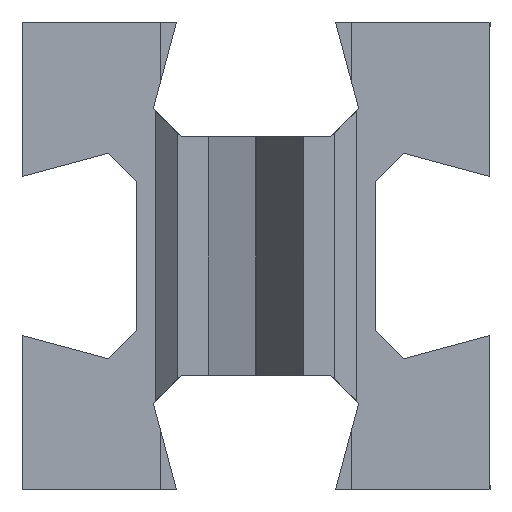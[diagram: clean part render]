
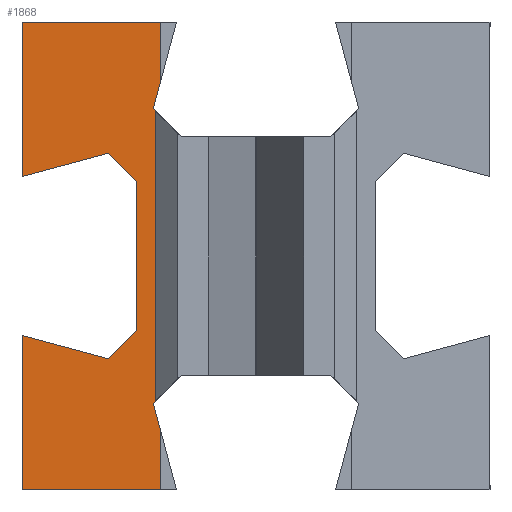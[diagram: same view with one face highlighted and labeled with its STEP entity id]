
A CAD part, front view. The second image highlights one B-rep face of the part: STEP entity #1868.
In plain terms, the highlighted planar face has unit normal (0, -1, 0).
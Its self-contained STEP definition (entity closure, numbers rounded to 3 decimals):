
#102=FACE_OUTER_BOUND('',#210,.T.);
#210=EDGE_LOOP('',(#1554,#1555,#1556,#1557,#1558,#1559,#1560,#1561,#1562,
#1563,#1564,#1565,#1566,#1567,#1568,#1569));
#308=LINE('',#2635,#566);
#316=LINE('',#2651,#574);
#332=LINE('',#2681,#590);
#336=LINE('',#2688,#594);
#339=LINE('',#2696,#597);
#373=LINE('',#2764,#631);
#395=LINE('',#2807,#653);
#425=LINE('',#2864,#683);
#434=LINE('',#2883,#692);
#436=LINE('',#2888,#694);
#438=LINE('',#2891,#696);
#452=LINE('',#2918,#710);
#458=LINE('',#2930,#716);
#468=LINE('',#2949,#726);
#469=LINE('',#2951,#727);
#470=LINE('',#2952,#728);
#566=VECTOR('',#2134,10.);
#574=VECTOR('',#2148,10.);
#590=VECTOR('',#2172,10.);
#594=VECTOR('',#2180,10.);
#597=VECTOR('',#2187,10.);
#631=VECTOR('',#2233,10.);
#653=VECTOR('',#2269,10.);
#683=VECTOR('',#2327,10.);
#692=VECTOR('',#2348,10.);
#694=VECTOR('',#2354,10.);
#696=VECTOR('',#2358,10.);
#710=VECTOR('',#2384,10.);
#716=VECTOR('',#2394,10.);
#726=VECTOR('',#2414,10.);
#727=VECTOR('',#2415,10.);
#728=VECTOR('',#2416,10.);
#799=VERTEX_POINT('',#2632);
#800=VERTEX_POINT('',#2634);
#804=VERTEX_POINT('',#2648);
#805=VERTEX_POINT('',#2650);
#814=VERTEX_POINT('',#2678);
#815=VERTEX_POINT('',#2680);
#816=VERTEX_POINT('',#2686);
#818=VERTEX_POINT('',#2694);
#819=VERTEX_POINT('',#2695);
#847=VERTEX_POINT('',#2762);
#861=VERTEX_POINT('',#2806);
#879=VERTEX_POINT('',#2886);
#885=VERTEX_POINT('',#2916);
#886=VERTEX_POINT('',#2917);
#890=VERTEX_POINT('',#2929);
#895=VERTEX_POINT('',#2950);
#976=EDGE_CURVE('',#800,#799,#308,.T.);
#984=EDGE_CURVE('',#805,#804,#316,.T.);
#1000=EDGE_CURVE('',#815,#814,#332,.T.);
#1004=EDGE_CURVE('',#814,#816,#336,.T.);
#1007=EDGE_CURVE('',#818,#819,#339,.T.);
#1041=EDGE_CURVE('',#819,#847,#373,.T.);
#1063=EDGE_CURVE('',#861,#818,#395,.T.);
#1093=EDGE_CURVE('',#861,#799,#425,.T.);
#1102=EDGE_CURVE('',#804,#800,#434,.T.);
#1104=EDGE_CURVE('',#816,#879,#436,.T.);
#1106=EDGE_CURVE('',#879,#805,#438,.T.);
#1120=EDGE_CURVE('',#885,#886,#452,.T.);
#1126=EDGE_CURVE('',#890,#885,#458,.T.);
#1136=EDGE_CURVE('',#847,#890,#468,.T.);
#1137=EDGE_CURVE('',#886,#895,#469,.T.);
#1138=EDGE_CURVE('',#895,#815,#470,.T.);
#1554=ORIENTED_EDGE('',*,*,#1041,.T.);
#1555=ORIENTED_EDGE('',*,*,#1136,.T.);
#1556=ORIENTED_EDGE('',*,*,#1126,.T.);
#1557=ORIENTED_EDGE('',*,*,#1120,.T.);
#1558=ORIENTED_EDGE('',*,*,#1137,.T.);
#1559=ORIENTED_EDGE('',*,*,#1138,.T.);
#1560=ORIENTED_EDGE('',*,*,#1000,.T.);
#1561=ORIENTED_EDGE('',*,*,#1004,.T.);
#1562=ORIENTED_EDGE('',*,*,#1104,.T.);
#1563=ORIENTED_EDGE('',*,*,#1106,.T.);
#1564=ORIENTED_EDGE('',*,*,#984,.T.);
#1565=ORIENTED_EDGE('',*,*,#1102,.T.);
#1566=ORIENTED_EDGE('',*,*,#976,.T.);
#1567=ORIENTED_EDGE('',*,*,#1093,.F.);
#1568=ORIENTED_EDGE('',*,*,#1063,.T.);
#1569=ORIENTED_EDGE('',*,*,#1007,.T.);
#1760=PLANE('',#1978);
#1868=ADVANCED_FACE('',(#102),#1760,.T.);
#1978=AXIS2_PLACEMENT_3D('',#2948,#2412,#2413);
#2134=DIRECTION('',(0.,0.,-1.));
#2148=DIRECTION('',(-0.707,0.,-0.707));
#2172=DIRECTION('',(0.,0.,-1.));
#2180=DIRECTION('',(0.966,0.,0.259));
#2187=DIRECTION('',(-0.259,0.,0.966));
#2233=DIRECTION('',(0.707,0.,0.707));
#2269=DIRECTION('',(0.,0.,1.));
#2327=DIRECTION('',(-1.,0.,0.));
#2348=DIRECTION('',(-0.966,0.,0.259));
#2354=DIRECTION('',(0.707,0.,-0.707));
#2358=DIRECTION('',(0.,0.,-1.));
#2384=DIRECTION('',(0.259,0.,0.966));
#2394=DIRECTION('',(-0.707,0.,0.707));
#2412=DIRECTION('center_axis',(0.,-1.,0.));
#2413=DIRECTION('ref_axis',(1.,0.,0.));
#2414=DIRECTION('',(0.,0.,1.));
#2415=DIRECTION('',(0.,0.,1.));
#2416=DIRECTION('',(-1.,0.,0.));
#2632=CARTESIAN_POINT('',(-5.,0.,0.));
#2634=CARTESIAN_POINT('',(-5.,0.,3.3));
#2635=CARTESIAN_POINT('',(-5.,0.,2.5));
#2648=CARTESIAN_POINT('',(-3.145,0.,2.803));
#2650=CARTESIAN_POINT('',(-2.544,0.,3.404));
#2651=CARTESIAN_POINT('',(-3.622,0.,2.326));
#2678=CARTESIAN_POINT('',(-5.,0.,6.7));
#2680=CARTESIAN_POINT('',(-5.,0.,10.));
#2681=CARTESIAN_POINT('',(-5.,0.,2.5));
#2686=CARTESIAN_POINT('',(-3.145,0.,7.197));
#2688=CARTESIAN_POINT('',(-3.627,0.,7.068));
#2694=CARTESIAN_POINT('',(-2.05,0.,1.306));
#2695=CARTESIAN_POINT('',(-2.197,0.,1.855));
#2696=CARTESIAN_POINT('',(-1.967,0.,0.996));
#2762=CARTESIAN_POINT('',(-2.05,0.,2.002));
#2764=CARTESIAN_POINT('',(-2.373,0.,1.678));
#2806=CARTESIAN_POINT('',(-2.05,0.,0.));
#2807=CARTESIAN_POINT('',(-2.05,0.,0.));
#2864=CARTESIAN_POINT('',(-2.25,0.,0.));
#2883=CARTESIAN_POINT('',(-3.305,0.,2.846));
#2886=CARTESIAN_POINT('',(-2.544,0.,6.596));
#2888=CARTESIAN_POINT('',(-0.822,0.,4.873));
#2891=CARTESIAN_POINT('',(-2.544,0.,1.702));
#2916=CARTESIAN_POINT('',(-2.197,0.,8.145));
#2917=CARTESIAN_POINT('',(-2.05,0.,8.694));
#2918=CARTESIAN_POINT('',(-2.968,0.,5.266));
#2929=CARTESIAN_POINT('',(-2.05,0.,7.998));
#2930=CARTESIAN_POINT('',(-0.174,0.,6.122));
#2948=CARTESIAN_POINT('Origin',(-2.25,0.,0.));
#2949=CARTESIAN_POINT('',(-2.05,0.,0.));
#2950=CARTESIAN_POINT('',(-2.05,0.,10.));
#2951=CARTESIAN_POINT('',(-2.05,0.,0.));
#2952=CARTESIAN_POINT('',(-2.25,0.,10.));
